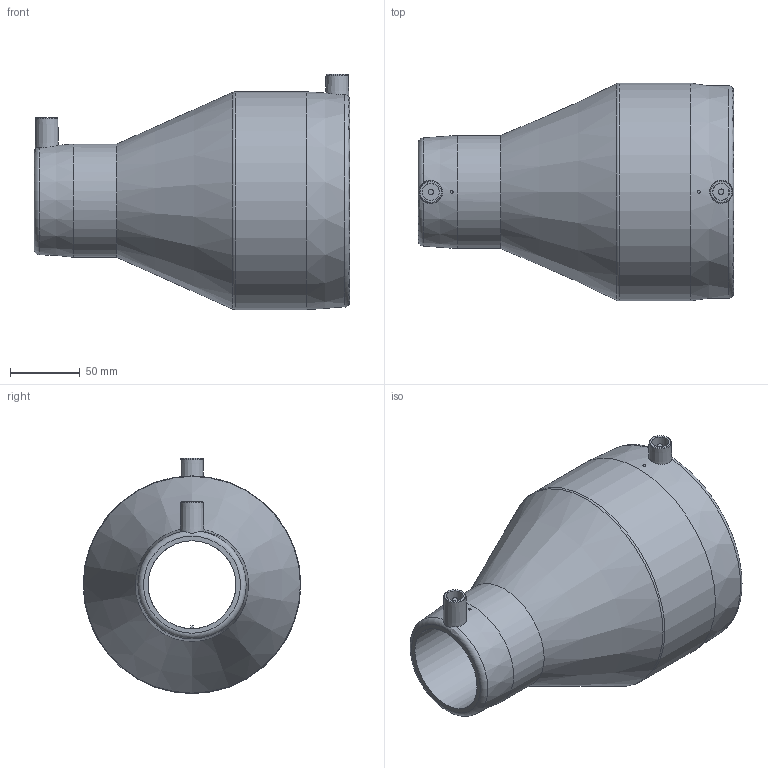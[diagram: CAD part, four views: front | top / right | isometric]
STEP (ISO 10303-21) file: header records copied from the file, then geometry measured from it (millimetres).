
FILE_DESCRIPTION(/* description */ ('Unknown'),/* implementation_level */ '2;1');
FILE_NAME(/* name */ 'REP125063C',/* time_stamp */ '2021-05-24T11:38:35+02:00',/* author */ ('Unknown'),/* organization */ ('Unknown'),/* preprocessor_version */ 'ST-DEVELOPER v16.7',/* originating_system */ 'Solid Edge',/* authorisation */ 'Unknown');
FILE_SCHEMA (('AUTOMOTIVE_DESIGN {1 0 10303 214 3 1 1}'));
Length unit declared in the file: millimetre
Products named in the file (1): REP125063C
Bounding box: 226 x 156 x 168.5 mm (x, y, z)
Volume: 1060974.2 mm3; surface area: 168950.5 mm2
Topology: 1 solids, 1 shells, 37 faces, 83 edges, 53 vertices
Faces by surface type: plane 14, cylinder 10, cone 7, torus 6
Full cylindrical faces by diameter (mm): 2 x2, 4 x2, 12 x2, 63 x1, 81 x1, 125 x1, 156 x1
Entity records: 892 total; most frequent: CARTESIAN_POINT 207, DIRECTION 142, ORIENTED_EDGE 94, EDGE_LOOP 66, FACE_BOUND 66, AXIS2_PLACEMENT_3D 66, EDGE_CURVE 47, VERTEX_POINT 39
